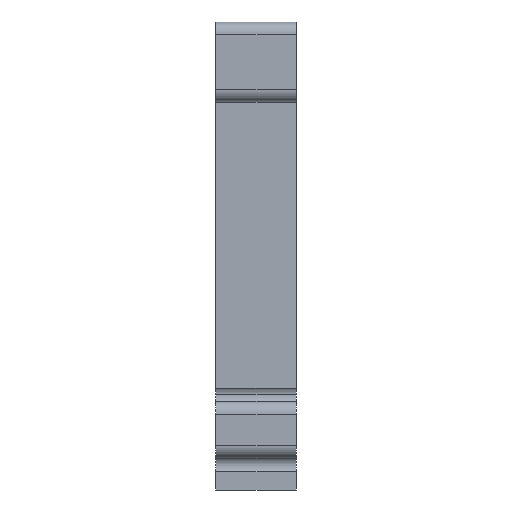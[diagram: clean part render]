
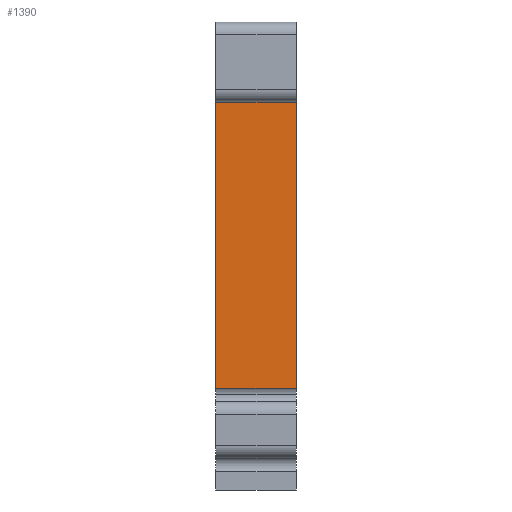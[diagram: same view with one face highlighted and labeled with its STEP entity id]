
A CAD part, front view. The second image highlights one B-rep face of the part: STEP entity #1390.
In plain terms, the highlighted planar face has unit normal (0, -1, 0).
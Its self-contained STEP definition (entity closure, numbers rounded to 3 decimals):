
#211=CARTESIAN_POINT('',(629.578,-19.343,90.925));
#212=VERTEX_POINT('',#211);
#220=CARTESIAN_POINT('',(629.578,-19.343,41.211));
#221=VERTEX_POINT('',#220);
#222=CARTESIAN_POINT('',(629.578,-19.343,90.925));
#223=DIRECTION('',(-0.,0.,-1.));
#224=VECTOR('',#223,49.714);
#225=LINE('',#222,#224);
#226=EDGE_CURVE('',#212,#221,#225,.T.);
#592=CARTESIAN_POINT('',(616.878,-19.343,41.211));
#593=VERTEX_POINT('',#592);
#601=CARTESIAN_POINT('',(616.878,-19.343,90.925));
#602=VERTEX_POINT('',#601);
#603=CARTESIAN_POINT('',(616.878,-19.343,90.925));
#604=DIRECTION('',(-0.,0.,-1.));
#605=VECTOR('',#604,49.714);
#606=LINE('',#603,#605);
#607=EDGE_CURVE('',#602,#593,#606,.T.);
#1369=CARTESIAN_POINT('',(616.878,-19.343,105.09));
#1370=DIRECTION('',(0.,1.,-0.));
#1371=DIRECTION('',(1.,-0.,-0.));
#1372=AXIS2_PLACEMENT_3D('',#1369,#1370,#1371);
#1373=PLANE('',#1372);
#1374=CARTESIAN_POINT('',(616.878,-19.343,90.925));
#1375=DIRECTION('',(1.,0.,-0.));
#1376=VECTOR('',#1375,12.7);
#1377=LINE('',#1374,#1376);
#1378=EDGE_CURVE('',#602,#212,#1377,.T.);
#1379=ORIENTED_EDGE('',*,*,#1378,.F.);
#1380=ORIENTED_EDGE('',*,*,#607,.T.);
#1381=CARTESIAN_POINT('',(629.578,-19.343,41.211));
#1382=DIRECTION('',(-1.,0.,0.));
#1383=VECTOR('',#1382,12.7);
#1384=LINE('',#1381,#1383);
#1385=EDGE_CURVE('',#221,#593,#1384,.T.);
#1386=ORIENTED_EDGE('',*,*,#1385,.F.);
#1387=ORIENTED_EDGE('',*,*,#226,.F.);
#1388=EDGE_LOOP('',(#1379,#1380,#1386,#1387));
#1389=FACE_BOUND('',#1388,.T.);
#1390=ADVANCED_FACE('',(#1389),#1373,.F.);
